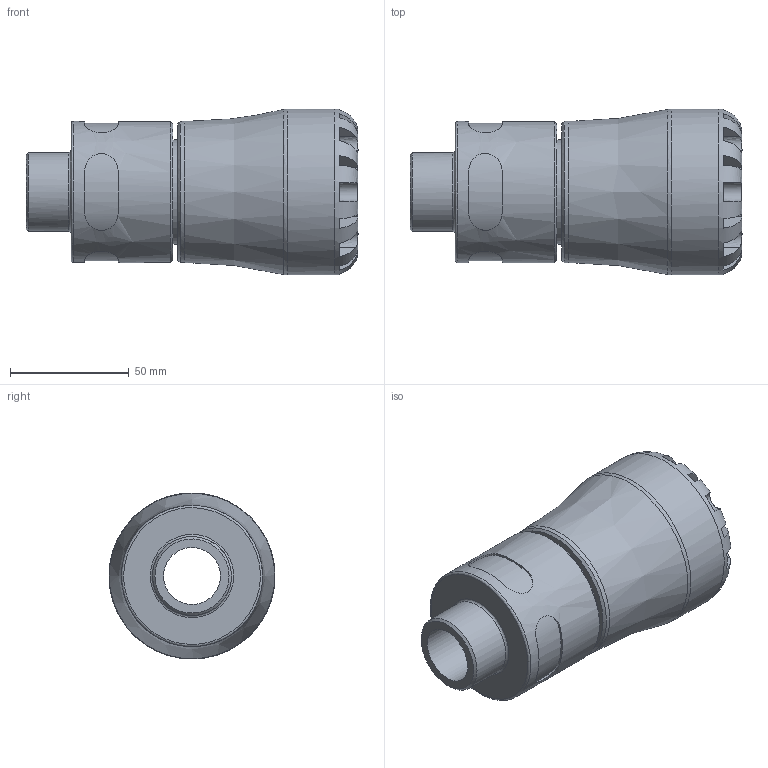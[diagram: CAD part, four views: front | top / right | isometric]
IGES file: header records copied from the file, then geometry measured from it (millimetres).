
Global section: file name: 10N200040010_10N2G0040010; native system: Autodesk Inventor 2019; preprocessor: unknown; author: KIM; date: 20240312.131940; units: millimetre
Bounding box: 140 x 70 x 70 mm (x, y, z)
Volume: 264885.4 mm3; surface area: 49262.2 mm2
Topology: 1 solids, 1 shells, 106 faces, 279 edges, 182 vertices
Faces by surface type: bspline 106
